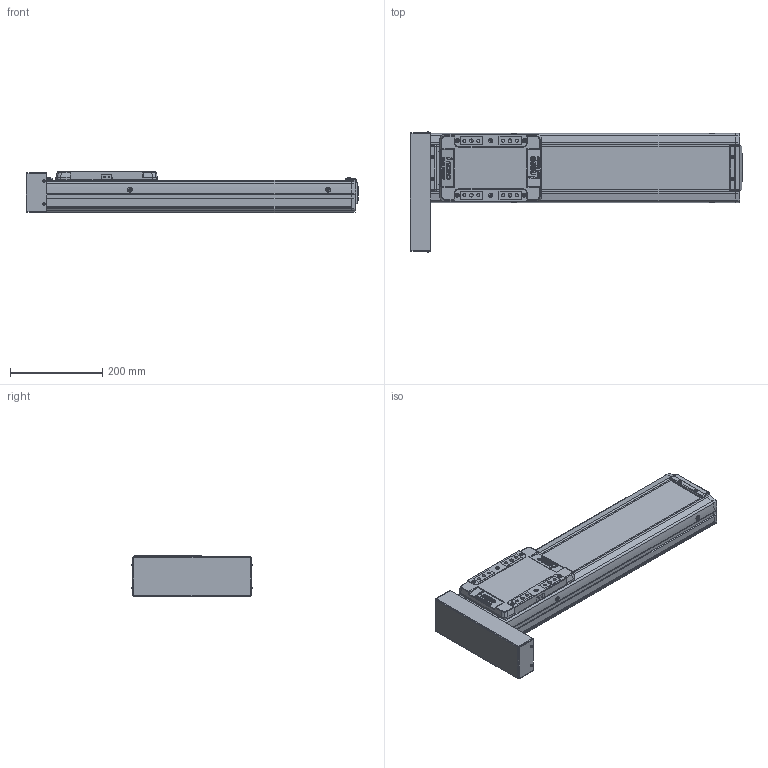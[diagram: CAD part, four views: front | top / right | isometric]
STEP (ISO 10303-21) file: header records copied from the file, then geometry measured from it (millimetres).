
FILE_DESCRIPTION(('STEP AP214'),'1');
FILE_NAME('Z:/Web/3D/SAN150/2013.04 (STP.)/SAN150ㅁㅁ-400PR.stp','2013-05-07T23:40:48',(' '),(' '),'Spatial InterOp 3D',' ',' ');
FILE_SCHEMA(('automotive_design'));
Length unit declared in the file: millimetre
Products named in the file (40): SLBL-SAN150; SLCV-SAN150; FHCS M4.0 x 8.0; BHCS M4.0 x 10.0; SFX-SAN150; RRCV-SAN150; FRBL-SAN150; Spacer; RN15; FRCV-SAN150; Screw 20; BASE-SAN150-000L ; SUS COVER; 스크루 : Round - M5.0 x 6.0; BHCS M3.0 x 6.0; P
Bounding box: 720 x 260.73 x 90 mm (x, y, z)
Volume: 5058764.9 mm3; surface area: 852228.3 mm2
Topology: 40 solids, 40 shells, 2115 faces, 5426 edges, 3459 vertices
Faces by surface type: plane 1031, cylinder 749, cone 242, sphere 60, bspline 21, torus 12
Entity records: 83636 total; most frequent: CARTESIAN_POINT 13506, DIRECTION 11524, ORIENTED_EDGE 10628, EDGE_CURVE 5314, AXIS2_PLACEMENT_3D 4152, VERTEX_POINT 3459, LINE 3220, VECTOR 3220
